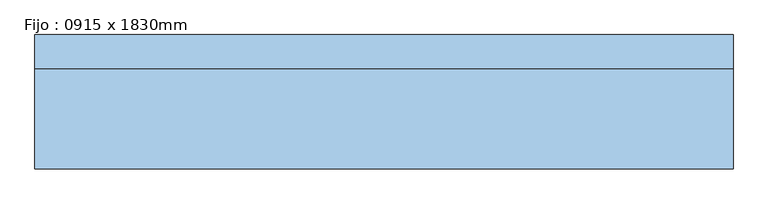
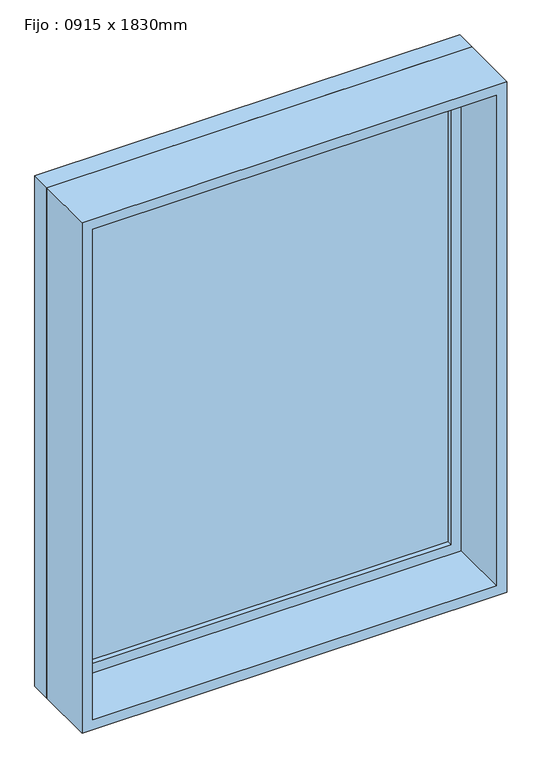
"""IFC4 building model written with IfcOpenShell, lengths in millimetres: window geometry, Fijo : 0915 x 1830mm."""

from ifc_helpers import new_model, si_unit, frame, origin, place, context, project, spatial, polyline, outline, extrude, source, transform, mapped, element, save


def fijo_0915_x_1830mm_ee8e0b23(model_context):
    return source(origin(), model_context, "Body", "SweptSolid", [
        extrude(outline(polyline([(-587.0, 103.0), (587.0, 103.0), (587.0, 91.0), (-587.0, 91.0), (-587.0, 103.0)])), frame((0.0, 0.0, 368.0), z_axis=(0.0, 0.0, 1.0), x_axis=(1.0, 0.0, 0.0)), (0.0, 0.0, 1.0), 1524.0),
        extrude(outline(polyline([(1936.0, -631.0), (324.0, -631.0), (324.0, 631.0), (1936.0, 631.0), (1936.0, -631.0)]), holes=[polyline([(1892.0, -587.0), (1892.0, 587.0), (368.0, 587.0), (368.0, -587.0), (1892.0, -587.0)])]), frame((0.0, 75.0, 0.0), z_axis=(0.0, 1.0, 0.0), x_axis=(0.0, 0.0, 1.0)), (0.0, 0.0, 1.0), 44.0),
        extrude(outline(polyline([(1955.0, -650.0), (305.0, -650.0), (305.0, 650.0), (1955.0, 650.0), (1955.0, -650.0)]), holes=[polyline([(1936.0, -631.0), (1936.0, 631.0), (324.0, 631.0), (324.0, -631.0), (1936.0, -631.0)])]), frame((0.0, 75.0, 0.0), z_axis=(0.0, 1.0, 0.0), x_axis=(0.0, 0.0, 1.0)), (0.0, 0.0, 1.0), 63.0),
        extrude(outline(polyline([(1955.0, -650.0), (305.0, -650.0), (305.0, 650.0), (1955.0, 650.0), (1955.0, -650.0)]), holes=[polyline([(1923.0, -618.0), (1923.0, 618.0), (337.0, 618.0), (337.0, -618.0), (1923.0, -618.0)])]), frame((0.0, -112.0, 0.0), z_axis=(0.0, 1.0, 0.0), x_axis=(0.0, 0.0, 1.0)), (0.0, 0.0, 1.0), 187.0),
    ])


if __name__ == "__main__":
    model = new_model("IFC4")
    model_context = context("Model", 3, world=origin())
    ifc_project = project(units=[si_unit("LENGTHUNIT", "METRE", prefix="MILLI")], contexts=[model_context])
    site = spatial("IfcSite", under=ifc_project)
    building = spatial("IfcBuilding", under=site)
    placement = place(None, origin())
    fijo_0915_x_1830mm_shape = fijo_0915_x_1830mm_ee8e0b23(model_context)
    element("IfcWindow", 1, ObjectType="Fijo : 0915 x 1830mm", at=placement, inside=building, context=model_context, shape_type="MappedRepresentation", body=[
        mapped(fijo_0915_x_1830mm_shape, transform((0.0, 0.0, 0.0), x_axis=(1.0, 0.0, 0.0), y_axis=(0.0, 1.0, 0.0), z_axis=(0.0, 0.0, 1.0))),
    ])
    save(model, "model.ifc")
